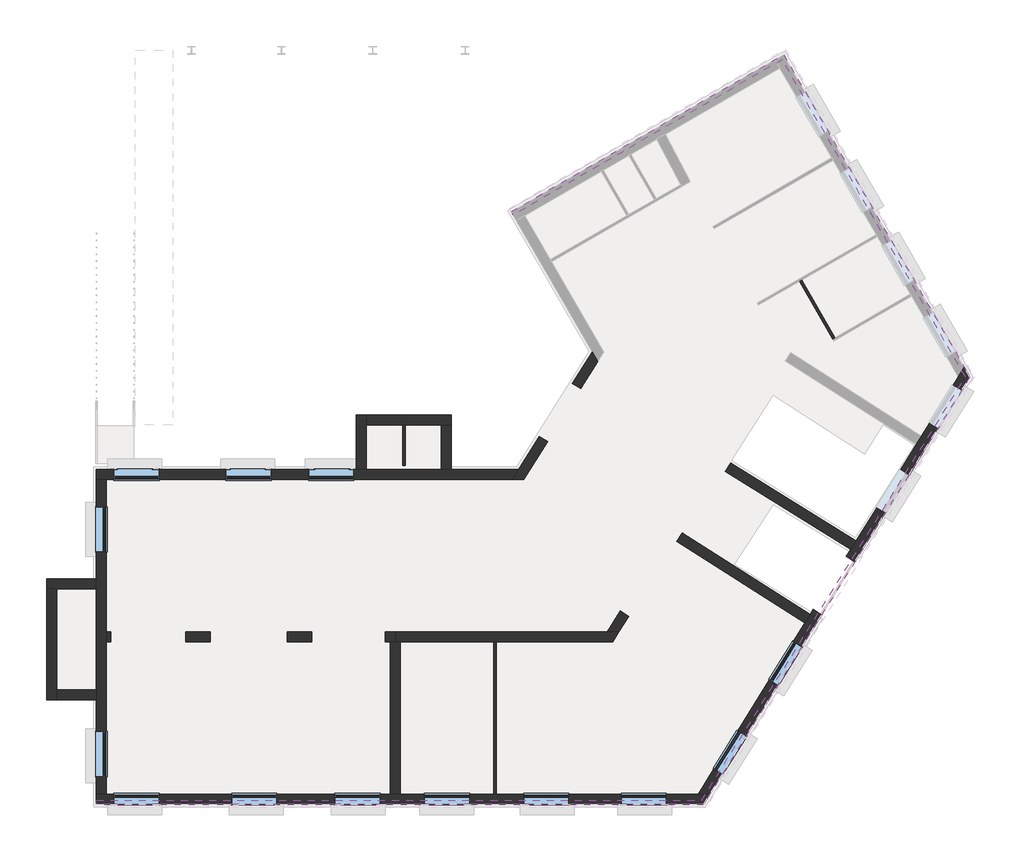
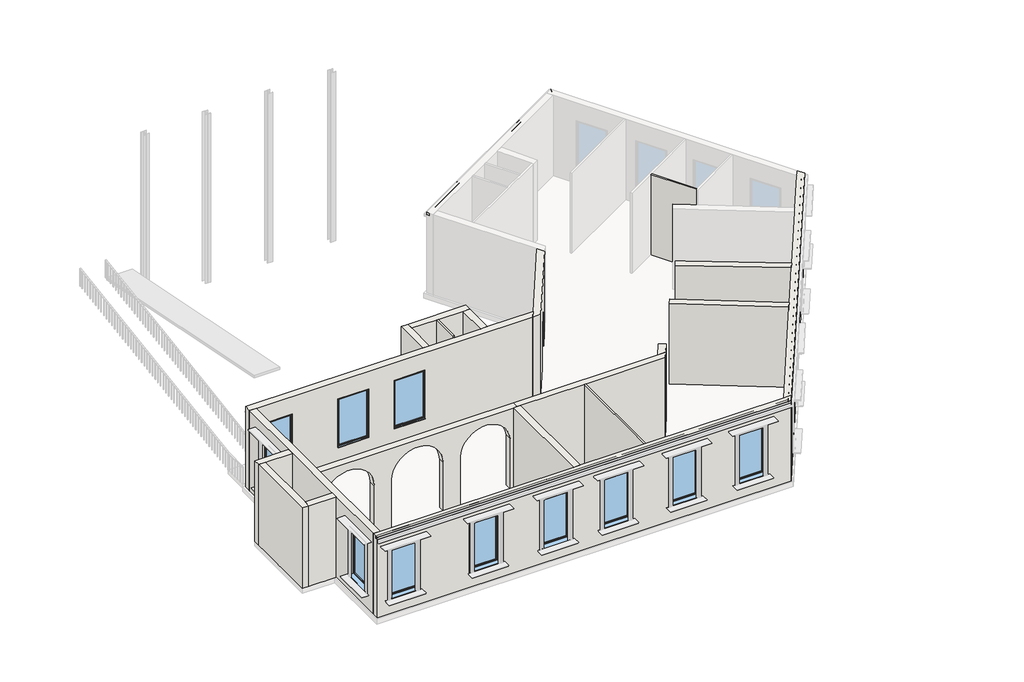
# One storey, part 1 of 3: 20 walls, 13 windows, 1 proxy.
"""IFC4 building model written with IfcOpenShell, lengths in millimetres."""

from ifc_helpers import new_model, si_unit, frame, origin, place, context, project, spatial, polyline, circle_curve, outline, extrude, faceted_brep, transform, mapped, element, save
from ifc_brep_helpers import plane_surface, revolved_surface, advanced_brep
from components import windows_sgl_plain_1810x1210mm_53e896f1, windows_sgl_plain_1810x1210mm_cb1ad5d4

model = new_model("IFC4")

# Units and contexts
model_context = context("Model", 3, world=origin())
ifc_project = project(units=[si_unit("LENGTHUNIT", "METRE", prefix="MILLI")], contexts=[model_context])

# Site, building, storey
site = spatial("IfcSite", under=ifc_project)
building = spatial("IfcBuilding", under=site)
storey = spatial("IfcBuildingStorey", under=building, Name="PLINT LEVEL +1.00", Elevation=1000.0)

# Proxy
placement = place(None, origin())
element("IfcBuildingElementProxy", 1, Name="Reveal", ObjectType="Reveal", at=placement, inside=storey, context=model_context, shape_type="SweptSolid", body=[
    extrude(outline(polyline([(14124.7769696, 25916.2931766), (14180.5592412, 26124.4754481), (21640.5525636, 13203.3879896), (21462.8553803, 13206.3685392), (14124.7769696, 25916.2931766)])), frame((0.0, 0.0, 5840.0), z_axis=(0.0, 0.0, 1.0), x_axis=(1.0, 0.0, 0.0)), (0.0, 0.0, 1.0), 152.4),
    extrude(outline(polyline([(3344.8391535, 19692.4931766), (3268.6391535, 19824.4754481), (14180.5592412, 26124.4754481), (14124.7769696, 25916.2931766), (3344.8391535, 19692.4931766)])), frame((0.0, 0.0, 5840.0), z_axis=(0.0, 0.0, 1.0), x_axis=(1.0, 0.0, 0.0)), (0.0, 0.0, 1.0), 152.4),
    extrude(outline(polyline([(21462.8553803, 13206.3685392), (21640.5525636, 13203.3879896), (10979.352603, -3909.9711746), (10894.7400458, -3757.5711746), (21462.8553803, 13206.3685392)])), frame((0.0, 0.0, 5840.0), z_axis=(0.0, 0.0, 1.0), x_axis=(1.0, 0.0, 0.0)), (0.0, 0.0, 1.0), 152.4),
    extrude(outline(polyline([(-13331.6874983, -3909.9711746), (-13331.6874983, -3757.5711746), (10894.7400458, -3757.5711746), (10979.352603, -3909.9711746), (-13331.6874983, -3909.9711746)])), frame((0.0, 0.0, 5840.0), z_axis=(0.0, 0.0, 1.0), x_axis=(1.0, 0.0, 0.0)), (0.0, 0.0, 1.0), 152.4),
])

# Walls
element("IfcWall", 2, ObjectType="Wall-Partn_12P-70MStd-12P", at=placement, inside=storey, context=model_context, shape_type="SweptSolid", body=[
    extrude(outline(polyline([(14900.5601664, 17077.3972641), (16226.8101664, 14780.2648805), (16144.537753, 14732.7648805), (14818.287753, 17029.8972641), (14900.5601664, 17077.3972641)])), frame((0.0, 0.0, 1000.0), z_axis=(0.0, 0.0, 1.0), x_axis=(1.0, 0.0, 0.0)), (0.0, 0.0, 1.0), 5000.0),
])
element("IfcWall", 3, ObjectType="Wall-Partn_12P-70MStd-12P", at=placement, inside=storey, context=model_context, shape_type="SweptSolid", body=[
    extrude(outline(polyline([(-972.280878, 11290.0288254), (-972.280878, 9665.0288254), (-1067.280878, 9665.0288254), (-1067.280878, 11290.0288254), (-972.280878, 11290.0288254)])), frame((0.0, 0.0, 1000.0), z_axis=(0.0, 0.0, 1.0), x_axis=(1.0, 0.0, 0.0)), (0.0, 0.0, 1.0), 5000.0),
])
element("IfcWall", 4, ObjectType="Wall-Partn_12P-70MStd-12P", at=placement, inside=storey, context=model_context, shape_type="SweptSolid", body=[
    extrude(outline(polyline([(2575.5515361, -3509.9711746), (2575.5515361, 2590.0288254), (2670.5515361, 2590.0288254), (2670.5515361, -3509.9711746), (2575.5515361, -3509.9711746)])), frame((0.0, 0.0, 1000.0), z_axis=(0.0, 0.0, 1.0), x_axis=(1.0, 0.0, 0.0)), (0.0, 0.0, 1.0), 5000.0),
])
element("IfcWall", 5, ObjectType="ug wall 2", at=placement, inside=storey, context=model_context, shape_type="Brep", body=[
    faceted_brep([(-13331.6874983, -3909.9711746, 1000.0), (10979.352603, -3909.9711746, 1000.0), (10979.352603, -3909.9711746, 5700.0), (10979.352603, -3909.9711746, 5840.0), (-13331.6874983, -3909.9711746, 5840.0), (-13331.6874983, -3909.9711746, 5700.0), (-10821.6874983, -3909.9711746, 4900.0), (-10821.6874983, -3909.9711746, 1900.0), (-12631.6874983, -3909.9711746, 1900.0), (-12631.6874983, -3909.9711746, 4900.0), (-7921.6874983, -3909.9711746, 1900.0), (-7921.6874983, -3909.9711746, 4900.0), (-6111.6874983, -3909.9711746, 4900.0), (-6111.6874983, -3909.9711746, 1900.0), (-3786.9484639, -3909.9711746, 1900.0), (-3786.9484639, -3909.9711746, 4900.0), (-1976.9484639, -3909.9711746, 4900.0), (-1976.9484639, -3909.9711746, 1900.0), (-205.6984639, -3909.9711746, 1900.0), (-205.6984639, -3909.9711746, 4900.0), (1604.3015361, -3909.9711746, 4900.0), (1604.3015361, -3909.9711746, 1900.0), (3770.5515361, -3909.9711746, 1900.0), (3770.5515361, -3909.9711746, 4900.0), (5580.5515361, -3909.9711746, 4900.0), (5580.5515361, -3909.9711746, 1900.0), (7680.5515361, -3909.9711746, 1900.0), (7680.5515361, -3909.9711746, 4900.0), (9490.5515361, -3909.9711746, 4900.0), (9490.5515361, -3909.9711746, 1900.0), (10979.352603, -3909.9711746, 6000.0), (-13331.6874983, -3909.9711746, 6000.0), (-13331.6874983, -3909.9711746, 5992.4), (10979.352603, -3909.9711746, 5992.4), (11228.5427206, -3509.9711746, 1000.0), (10757.2724004, -3509.9711746, 1000.0), (2670.5515361, -3509.9711746, 1000.0), (2575.5515361, -3509.9711746, 1000.0), (-1176.9484639, -3509.9711746, 1000.0), (-1576.9484639, -3509.9711746, 1000.0), (-12931.6874983, -3509.9711746, 1000.0), (-13331.6874983, -3509.9711746, 1000.0), (-13331.6874983, -3509.9711746, 6000.0), (-12931.6874983, -3509.9711746, 6000.0), (-1576.9484639, -3509.9711746, 6000.0), (-1176.9484639, -3509.9711746, 6000.0), (2575.5515361, -3509.9711746, 6000.0), (2670.5515361, -3509.9711746, 6000.0), (10757.2724004, -3509.9711746, 6000.0), (11228.5427206, -3509.9711746, 6000.0), (11228.5427206, -3509.9711746, 5992.4), (11048.9887286, -3509.9711746, 5992.4), (11048.9887286, -3509.9711746, 5840.0), (11228.5427206, -3509.9711746, 5840.0), (11228.5427206, -3509.9711746, 5700.0), (-10821.6874983, -3509.9711746, 1900.0), (-10821.6874983, -3509.9711746, 4900.0), (-12631.6874983, -3509.9711746, 4900.0), (-12631.6874983, -3509.9711746, 1900.0), (-7921.6874983, -3509.9711746, 4900.0), (-7921.6874983, -3509.9711746, 1900.0), (-6111.6874983, -3509.9711746, 1900.0), (-6111.6874983, -3509.9711746, 4900.0), (-3786.9484639, -3509.9711746, 4900.0), (-3786.9484639, -3509.9711746, 1900.0), (-1976.9484639, -3509.9711746, 1900.0), (-1976.9484639, -3509.9711746, 4900.0), (-205.6984639, -3509.9711746, 4900.0), (-205.6984639, -3509.9711746, 1900.0), (1604.3015361, -3509.9711746, 1900.0), (1604.3015361, -3509.9711746, 4900.0), (3770.5515361, -3509.9711746, 4900.0), (3770.5515361, -3509.9711746, 1900.0), (5580.5515361, -3509.9711746, 1900.0), (5580.5515361, -3509.9711746, 4900.0), (7680.5515361, -3509.9711746, 4900.0), (7680.5515361, -3509.9711746, 1900.0), (9490.5515361, -3509.9711746, 1900.0), (9490.5515361, -3509.9711746, 4900.0), (-13331.6874983, -3757.5711746, 5840.0), (-13331.6874983, -3757.5711746, 5992.4), (10894.7400458, -3757.5711746, 5992.4), (10894.7400458, -3757.5711746, 5840.0)], [[[0, 1, 2, 3, 4, 5], [6, 7, 8, 9], [10, 11, 12, 13], [14, 15, 16, 17], [18, 19, 20, 21], [22, 23, 24, 25], [26, 27, 28, 29]], [[30, 31, 32, 33]], [[34, 35, 36, 37, 38, 39, 40, 41, 42, 43, 44, 45, 46, 47, 48, 49, 50, 51, 52, 53, 54], [55, 56, 57, 58], [59, 60, 61, 62], [63, 64, 65, 66], [67, 68, 69, 70], [71, 72, 73, 74], [75, 76, 77, 78]], [[1, 0, 41, 40, 39, 38, 37, 36, 35, 34]], [[42, 41, 0, 5, 4, 79, 80, 32, 31]], [[31, 30, 49, 48, 47, 46, 45, 44, 43, 42]], [[7, 6, 56, 55]], [[8, 7, 55, 58]], [[9, 8, 58, 57]], [[6, 9, 57, 56]], [[60, 59, 11, 10]], [[61, 60, 10, 13]], [[62, 61, 13, 12]], [[59, 62, 12, 11]], [[64, 63, 15, 14]], [[65, 64, 14, 17]], [[66, 65, 17, 16]], [[63, 66, 16, 15]], [[68, 67, 19, 18]], [[69, 68, 18, 21]], [[70, 69, 21, 20]], [[67, 70, 20, 19]], [[72, 71, 23, 22]], [[73, 72, 22, 25]], [[74, 73, 25, 24]], [[71, 74, 24, 23]], [[76, 75, 27, 26]], [[77, 76, 26, 29]], [[78, 77, 29, 28]], [[75, 78, 28, 27]], [[80, 81, 51, 50, 33, 32]], [[81, 80, 79, 82]], [[82, 79, 4, 3, 53, 52]], [[81, 82, 52, 51]], [[1, 34, 54, 53, 3, 2]], [[49, 30, 33, 50]]]),
])
element("IfcWall", 6, ObjectType="ug wall 2", at=placement, inside=storey, context=model_context, shape_type="Brep", body=[
    faceted_brep([(10757.2724004, -3509.9711746, 6000.0), (15027.6143644, 3344.7821415, 6000.0), (15239.1339681, 3684.313429, 6000.0), (16869.8307749, 6301.9080943, 6000.0), (17081.3362641, 6641.4167251, 6000.0), (19483.963011, 10498.1134019, 6000.0), (19695.4826147, 10837.6446893, 6000.0), (21174.1557572, 13211.2109546, 6000.0), (21413.8740235, 13596.0067379, 6000.0), (21413.8740235, 13596.0067379, 5992.4), (21322.5413641, 13449.3995444, 5992.4), (21322.5413641, 13449.3995444, 5840.0), (21413.8740235, 13596.0067379, 5840.0), (21413.8740235, 13596.0067379, 5700.0), (21413.8740235, 13596.0067379, 1000.0), (21174.1557572, 13211.2109546, 1000.0), (19695.4826147, 10837.6446893, 1000.0), (19483.963011, 10498.1134019, 1000.0), (17081.3362641, 6641.4167251, 1000.0), (16869.8307749, 6301.9080943, 1000.0), (16690.4764424, 6014.0085032, 1000.0), (16690.4764424, 6014.0085032, 4032.0), (15368.5699538, 3892.0840852, 4032.0), (15368.5699538, 3892.0840852, 1000.0), (15239.1339681, 3684.313429, 1000.0), (15027.6143644, 3344.7821415, 1000.0), (10757.2724004, -3509.9711746, 1000.0), (11385.0840648, -2502.2078327, 4900.0), (11385.0840648, -2502.2078327, 1900.0), (12342.1443625, -965.9345542, 1900.0), (12342.1443625, -965.9345542, 4900.0), (13611.1745916, 1071.1128871, 4900.0), (13611.1745916, 1071.1128871, 1900.0), (14568.2348893, 2607.3861656, 1900.0), (14568.2348893, 2607.3861656, 4900.0), (20014.4896224, 11349.7147675, 4900.0), (20014.4896224, 11349.7147675, 1900.0), (20971.5499201, 12885.9880461, 1900.0), (20971.5499201, 12885.9880461, 4900.0), (18862.3111574, 9500.2377888, 1901.8405332), (18862.3111574, 9500.2377888, 4901.8405332), (17905.2508596, 7963.9645102, 4901.8405332), (17905.2508596, 7963.9645102, 1901.8405332), (21640.5525636, 13203.3879896, 1000.0), (21640.5525636, 13203.3879896, 5700.0), (21640.5525636, 13203.3879896, 5840.0), (11228.5427206, -3509.9711746, 5840.0), (11228.5427206, -3509.9711746, 5700.0), (11228.5427206, -3509.9711746, 1000.0), (14823.3769203, 2260.4570157, 1000.0), (14937.9548596, 2444.3775345, 1000.0), (15708.0778607, 3680.5790471, 1000.0), (15708.0778607, 3680.5790471, 4032.0), (17029.9843493, 5802.503465, 4032.0), (17029.9843493, 5802.503465, 1000.0), (11724.5919717, -2713.7128709, 1900.0), (11724.5919717, -2713.7128709, 4900.0), (12681.6522694, -1177.4395923, 4900.0), (12681.6522694, -1177.4395923, 1900.0), (13950.6824985, 859.6078489, 1900.0), (13950.6824985, 859.6078489, 4900.0), (14907.7427962, 2395.8811275, 4900.0), (14907.7427962, 2395.8811275, 1900.0), (20353.9975292, 11138.2097293, 1900.0), (20353.9975292, 11138.2097293, 4900.0), (21311.057827, 12674.4830079, 4900.0), (21311.057827, 12674.4830079, 1900.0), (19201.8190643, 9288.7327506, 4901.8405332), (19201.8190643, 9288.7327506, 1901.8405332), (18244.7587665, 7752.459472, 1901.8405332), (18244.7587665, 7752.459472, 4901.8405332), (21640.5525636, 13203.3879896, 6000.0), (17642.9715821, 6786.4706278, 6000.0), (15210.6688297, 2882.1380244, 6000.0), (11228.5427206, -3509.9711746, 6000.0), (11228.5427206, -3509.9711746, 5992.4), (21640.5525636, 13203.3879896, 5992.4), (21462.8553803, 13206.3685392, 5840.0), (11048.9887286, -3509.9711746, 5840.0), (21462.8553803, 13206.3685392, 5992.4), (11048.9887286, -3509.9711746, 5992.4)], [[[0, 1, 2, 3, 4, 5, 6, 7, 8, 9, 10, 11, 12, 13, 14, 15, 16, 17, 18, 19, 20, 21, 22, 23, 24, 25, 26], [27, 28, 29, 30], [31, 32, 33, 34], [35, 36, 37, 38], [39, 40, 41, 42]], [[43, 44, 45, 46, 47, 48, 49, 50, 51, 52, 53, 54], [55, 56, 57, 58], [59, 60, 61, 62], [63, 64, 65, 66], [67, 68, 69, 70]], [[71, 72, 73, 74, 75, 76]], [[14, 43, 54, 20, 19, 18, 17, 16, 15]], [[48, 26, 25, 24, 23, 51, 50, 49]], [[8, 71, 76, 9]], [[43, 14, 13, 12, 45, 44]], [[71, 8, 7, 6, 5, 4, 3, 2, 1, 0, 74, 73, 72]], [[28, 27, 56, 55]], [[29, 28, 55, 58]], [[30, 29, 58, 57]], [[27, 30, 57, 56]], [[32, 31, 60, 59]], [[33, 32, 59, 62]], [[34, 33, 62, 61]], [[31, 34, 61, 60]], [[36, 35, 64, 63]], [[37, 36, 63, 66]], [[38, 37, 66, 65]], [[35, 38, 65, 64]], [[11, 77, 78, 46, 45, 12]], [[79, 77, 11, 10]], [[80, 79, 10, 9, 76, 75]], [[77, 79, 80, 78]], [[0, 26, 48, 47, 46, 78, 80, 75, 74]], [[22, 52, 51, 23]], [[52, 22, 21, 53]], [[53, 21, 20, 54]], [[68, 67, 40, 39]], [[69, 68, 39, 42]], [[70, 69, 42, 41]], [[67, 70, 41, 40]]]),
])
element("IfcWall", 7, ObjectType="ug wall 2", at=placement, inside=storey, context=model_context, shape_type="Brep", body=[
    faceted_brep([(6735.0671017, 13820.446121, 1000.0), (6735.0671017, 13820.446121, 6000.0), (3779.174312, 9090.0288254, 6000.0), (3779.174312, 9090.0288254, 1000.0), (4732.5518841, 10615.7518734, 1000.0), (4732.5518841, 10615.7518734, 3992.0), (6057.3500447, 12735.8721138, 3992.0), (6057.3500447, 12735.8721138, 1000.0), (6508.5530916, 14212.7798952, 6000.0), (6508.5530916, 14212.7798952, 1000.0), (5718.1308063, 12947.8398195, 1000.0), (5718.1308063, 12947.8398195, 3992.0), (4393.3326457, 10827.7195791, 3992.0), (4393.3326457, 10827.7195791, 1000.0), (3557.4506914, 9490.0288254, 1000.0), (3307.5029506, 9090.0288254, 1000.0), (3307.5029506, 9090.0288254, 6000.0), (3557.4506914, 9490.0288254, 6000.0)], [[[0, 1, 2, 3, 4, 5, 6, 7]], [[8, 9, 10, 11, 12, 13, 14, 15, 16, 17]], [[9, 0, 7, 10]], [[3, 15, 14, 13, 4]], [[1, 0, 9, 8]], [[3, 2, 16, 15]], [[16, 2, 1, 8, 17]], [[12, 5, 4, 13]], [[6, 11, 10, 7]], [[11, 6, 5, 12]]]),
])
element("IfcWall", 8, ObjectType="ug wall 2", at=placement, inside=storey, context=model_context, shape_type="Brep", body=[
    faceted_brep([(-13331.6874983, 9090.0288254, 6000.0), (-13331.6874983, 9090.0288254, 1000.0), (-12931.6874983, 9090.0288254, 1000.0), (3307.5029506, 9090.0288254, 1000.0), (3307.5029506, 9090.0288254, 6000.0), (-12931.6874983, 9090.0288254, 6000.0), (-10821.6874983, 9090.0288254, 4900.0), (-10821.6874983, 9090.0288254, 1900.0), (-12631.6874983, 9090.0288254, 1900.0), (-12631.6874983, 9090.0288254, 4900.0), (-3031.9484639, 9090.0288254, 4900.0), (-3031.9484639, 9090.0288254, 1900.0), (-4841.9484639, 9090.0288254, 1900.0), (-4841.9484639, 9090.0288254, 4900.0), (-6341.9484639, 9090.0288254, 4900.0), (-6341.9484639, 9090.0288254, 1900.0), (-8151.9484639, 9090.0288254, 1900.0), (-8151.9484639, 9090.0288254, 4900.0), (-13331.6874983, 9490.0288254, 1000.0), (-13331.6874983, 9490.0288254, 6000.0), (-10196.6874983, 9490.0288254, 6000.0), (-2931.9484639, 9490.0288254, 6000.0), (-2531.9484639, 9490.0288254, 6000.0), (468.0515361, 9490.0288254, 6000.0), (868.0515361, 9490.0288254, 6000.0), (3557.4506914, 9490.0288254, 6000.0), (3557.4506914, 9490.0288254, 1000.0), (868.0515361, 9490.0288254, 1000.0), (468.0515361, 9490.0288254, 1000.0), (-2531.9484639, 9490.0288254, 1000.0), (-2931.9484639, 9490.0288254, 1000.0), (-13146.6874983, 9490.0288254, 1000.0), (-13246.6874983, 9490.0288254, 1000.0), (-10821.6874983, 9490.0288254, 4900.0), (-12631.6874983, 9490.0288254, 4900.0), (-12631.6874983, 9490.0288254, 1900.0), (-10821.6874983, 9490.0288254, 1900.0), (-3031.9484639, 9490.0288254, 4900.0), (-4841.9484639, 9490.0288254, 4900.0), (-4841.9484639, 9490.0288254, 1900.0), (-3031.9484639, 9490.0288254, 1900.0), (-6341.9484639, 9490.0288254, 4900.0), (-8151.9484639, 9490.0288254, 4900.0), (-8151.9484639, 9490.0288254, 1900.0), (-6341.9484639, 9490.0288254, 1900.0)], [[[0, 1, 2, 3, 4, 5], [6, 7, 8, 9], [10, 11, 12, 13], [14, 15, 16, 17]], [[18, 19, 20, 21, 22, 23, 24, 25, 26, 27, 28, 29, 30, 31, 32], [33, 34, 35, 36], [37, 38, 39, 40], [41, 42, 43, 44]], [[3, 2, 1, 18, 32, 31, 30, 29, 28, 27, 26]], [[4, 3, 26, 25]], [[0, 5, 4, 25, 24, 23, 22, 21, 20, 19]], [[7, 6, 33, 36]], [[8, 7, 36, 35]], [[9, 8, 35, 34]], [[6, 9, 34, 33]], [[11, 10, 37, 40]], [[12, 11, 40, 39]], [[13, 12, 39, 38]], [[10, 13, 38, 37]], [[15, 14, 41, 44]], [[16, 15, 44, 43]], [[17, 16, 43, 42]], [[14, 17, 42, 41]], [[0, 19, 18, 1]]]),
])
element("IfcWall", 9, ObjectType="ug wall 2", at=placement, inside=storey, context=model_context, shape_type="Brep", body=[
    faceted_brep([(-12931.6874983, -3509.9711746, 1000.0), (-12931.6874983, 2590.0288254, 1000.0), (-12931.6874983, 2990.0288254, 1000.0), (-12931.6874983, 9090.0288254, 1000.0), (-12931.6874983, 9090.0288254, 6000.0), (-12931.6874983, 2990.0288254, 6000.0), (-12931.6874983, 2590.0288254, 6000.0), (-12931.6874983, -3509.9711746, 6000.0), (-12931.6874983, -999.9711746, 4900.0), (-12931.6874983, -999.9711746, 1900.0), (-12931.6874983, -2809.9711746, 1900.0), (-12931.6874983, -2809.9711746, 4900.0), (-12931.6874983, 8002.7918146, 4900.0), (-12931.6874983, 8002.7918146, 1900.0), (-12931.6874983, 6192.7918146, 1900.0), (-12931.6874983, 6192.7918146, 4900.0), (-13331.6874983, -3509.9711746, 1000.0), (-13331.6874983, -3509.9711746, 6000.0), (-13331.6874983, 265.5548037, 6000.0), (-13331.6874983, 665.5548037, 6000.0), (-13331.6874983, 4705.5548037, 6000.0), (-13331.6874983, 5105.5548037, 6000.0), (-13331.6874983, 9090.0288254, 6000.0), (-13331.6874983, 9090.0288254, 1000.0), (-13331.6874983, 5105.5548037, 1000.0), (-13331.6874983, 4705.5548037, 1000.0), (-13331.6874983, 665.5548037, 1000.0), (-13331.6874983, 265.5548037, 1000.0), (-13331.6874983, -999.9711746, 4900.0), (-13331.6874983, -2809.9711746, 4900.0), (-13331.6874983, -2809.9711746, 1900.0), (-13331.6874983, -999.9711746, 1900.0), (-13331.6874983, 8002.7918146, 4900.0), (-13331.6874983, 6192.7918146, 4900.0), (-13331.6874983, 6192.7918146, 1900.0), (-13331.6874983, 8002.7918146, 1900.0)], [[[0, 1, 2, 3, 4, 5, 6, 7], [8, 9, 10, 11], [12, 13, 14, 15]], [[16, 17, 18, 19, 20, 21, 22, 23, 24, 25, 26, 27], [28, 29, 30, 31], [32, 33, 34, 35]], [[3, 2, 1, 0, 16, 27, 26, 25, 24, 23]], [[0, 7, 17, 16]], [[7, 6, 5, 4, 22, 21, 20, 19, 18, 17]], [[9, 8, 28, 31]], [[10, 9, 31, 30]], [[11, 10, 30, 29]], [[8, 11, 29, 28]], [[13, 12, 32, 35]], [[14, 13, 35, 34]], [[15, 14, 34, 33]], [[12, 15, 33, 32]], [[3, 23, 22, 4]]]),
])
element("IfcWall", 10, ObjectType="ug wall 2", at=placement, inside=storey, context=model_context, shape_type="AdvancedBrep", body=[
    advanced_brep(
    [(-1376.9484639, 2990.0288254, 1000.0), (-1769.1874983, 2990.0288254, 1000.0), (-1769.1874983, 2990.0288254, 4129.8016781), (-4711.6874983, 2990.0288254, 4000.0), (-4711.6874983, 2990.0288254, 1000.0), (-5691.6874983, 2990.0288254, 1000.0), (-5691.6874983, 2990.0288254, 4000.0), (-8771.6874983, 2990.0288254, 4000.0), (-8771.6874983, 2990.0288254, 1000.0), (-9751.6874983, 2990.0288254, 1000.0), (-9751.6874983, 2990.0288254, 4000.0), (-12755.2222662, 2990.0288254, 4075.0), (-12755.2222662, 2990.0288254, 1000.0), (-12931.6874983, 2990.0288254, 1000.0), (-12931.6874983, 2990.0288254, 6000.0), (-1376.9484639, 2990.0288254, 6000.0), (-1376.9484639, 2590.0288254, 1000.0), (-1376.9484639, 2590.0288254, 6000.0), (-1576.9484639, 2590.0288254, 6000.0), (-12931.6874983, 2590.0288254, 6000.0), (-12931.6874983, 2590.0288254, 1000.0), (-12755.2222662, 2590.0288254, 1000.0), (-12755.2222662, 2590.0288254, 4075.0), (-9751.6874983, 2590.0288254, 4000.0), (-9751.6874983, 2590.0288254, 1000.0), (-8771.6874983, 2590.0288254, 1000.0), (-8771.6874983, 2590.0288254, 4000.0), (-5691.6874983, 2590.0288254, 4000.0), (-5691.6874983, 2590.0288254, 1000.0), (-4711.6874983, 2590.0288254, 1000.0), (-4711.6874983, 2590.0288254, 4000.0), (-1769.1874983, 2590.0288254, 4129.8016781), (-1769.1874983, 2590.0288254, 1000.0), (-1576.9484639, 2590.0288254, 1000.0)],
    [
        (0, 1),
        (1, 2),
        (2, 3, circle_curve(frame((-3237.5745458, 2990.0288254, 4000.0), z_axis=(0.0, -1.0, 0.0), x_axis=(1.0, 0.0, 0.0)), 1474.1129525)),
        (3, 4),
        (4, 5),
        (5, 6),
        (6, 7, circle_curve(frame((-7231.6874983, 2990.0288254, 4000.0), z_axis=(0.0, -1.0, 0.0), x_axis=(1.0, 0.0, 0.0)), 1540.0)),
        (7, 8),
        (8, 9),
        (9, 10),
        (10, 11, circle_curve(frame((-11254.391279, 2990.0288254, 4000.0), z_axis=(0.0, -1.0, 0.0), x_axis=(1.0, 0.0, 0.0)), 1502.7037806)),
        (11, 12),
        (12, 13),
        (13, 14),
        (14, 15),
        (15, 0),
        (16, 17),
        (17, 18),
        (18, 19),
        (19, 20),
        (20, 21),
        (21, 22),
        (22, 23, circle_curve(frame((-11254.391279, 2590.0288254, 4000.0), z_axis=(0.0, 1.0, 0.0), x_axis=(1.0, 0.0, 0.0)), 1502.7037806)),
        (23, 24),
        (24, 25),
        (25, 26),
        (26, 27, circle_curve(frame((-7231.6874983, 2590.0288254, 4000.0), z_axis=(0.0, 1.0, 0.0), x_axis=(1.0, 0.0, 0.0)), 1540.0)),
        (27, 28),
        (28, 29),
        (29, 30),
        (30, 31, circle_curve(frame((-3237.5745458, 2590.0288254, 4000.0), z_axis=(0.0, 1.0, 0.0), x_axis=(1.0, 0.0, 0.0)), 1474.1129525)),
        (31, 32),
        (32, 33),
        (33, 16),
        (13, 20),
        (19, 14),
        (0, 16),
        (32, 1),
        (15, 17),
        (31, 2),
        (30, 3),
        (29, 4),
        (28, 5),
        (27, 6),
        (26, 7),
        (25, 8),
        (24, 9),
        (23, 10),
        (22, 11),
        (21, 12),
    ],
    [
        plane_surface(frame((-1376.9484639, 2990.0288254, 1000.0), z_axis=(0.0, 1.0, 0.0), x_axis=(-1.0, 0.0, 0.0))),
        plane_surface(frame((-1376.9484639, 2590.0288254, 1000.0), z_axis=(0.0, -1.0, 0.0), x_axis=(1.0, 0.0, 0.0))),
        plane_surface(frame((-12931.6874983, -3709.9711746, 1000.0), z_axis=(-1.0, 0.0, 0.0), x_axis=(0.0, 1.0, 0.0))),
        plane_surface(frame((-1376.9484639, 2990.0288254, 1000.0), z_axis=(0.0, 0.0, -1.0), x_axis=(0.0, -1.0, 0.0))),
        plane_surface(frame((-1376.9484639, 2990.0288254, 6000.0), z_axis=(1.0, 0.0, 0.0), x_axis=(0.0, -1.0, 0.0))),
        plane_surface(frame((-1769.1874983, 2990.0288254, 1000.0), z_axis=(-1.0, 0.0, 0.0), x_axis=(0.0, -1.0, 0.0))),
        revolved_surface(polyline([(-1763.4615933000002, 2590.0288254, 4000.0), (-1763.4615933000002, 2990.0288254, 4000.0)]), (-3237.5745458, 2590.0288254, 4000.0), (0.0, -1.0, 0.0)),
        plane_surface(frame((-4711.6874983, 2990.0288254, 4000.0), z_axis=(1.0, 0.0, 0.0), x_axis=(0.0, -1.0, 0.0))),
        plane_surface(frame((-4711.6874983, 2990.0288254, 1000.0), z_axis=(0.0, 0.0, -1.0), x_axis=(0.0, -1.0, 0.0))),
        plane_surface(frame((-5691.6874983, 2990.0288254, 1000.0), z_axis=(-1.0, 0.0, 0.0), x_axis=(0.0, -1.0, 0.0))),
        revolved_surface(polyline([(-5691.6874983, 2590.0288254, 4000.0), (-5691.6874983, 2990.0288254, 4000.0)]), (-7231.6874983, 2590.0288254, 4000.0), (0.0, -1.0, 0.0)),
        plane_surface(frame((-8771.6874983, 2990.0288254, 4000.0), z_axis=(1.0, 0.0, 0.0), x_axis=(0.0, -1.0, 0.0))),
        plane_surface(frame((-8771.6874983, 2990.0288254, 1000.0), z_axis=(0.0, 0.0, -1.0), x_axis=(0.0, -1.0, 0.0))),
        plane_surface(frame((-9751.6874983, 2990.0288254, 1000.0), z_axis=(-1.0, 0.0, 0.0), x_axis=(0.0, -1.0, 0.0))),
        revolved_surface(polyline([(-9751.687498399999, 2590.0288254, 4000.0), (-9751.687498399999, 2990.0288254, 4000.0)]), (-11254.391279, 2590.0288254, 4000.0), (0.0, -1.0, 0.0)),
        plane_surface(frame((-12755.2222662, 2990.0288254, 4075.0), z_axis=(1.0, 0.0, 0.0), x_axis=(0.0, -1.0, 0.0))),
        plane_surface(frame((-12755.2222662, 2990.0288254, 1000.0), z_axis=(0.0, 0.0, -1.0), x_axis=(0.0, -1.0, 0.0))),
        plane_surface(frame((14180.5592412, 26124.4754481, 6000.0), z_axis=(0.0, 0.0, 1.0), x_axis=(0.49999999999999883, -0.8660254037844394, 0.0))),
    ],
    [
        (0, [[1, 2, 3, 4, 5, 6, 7, 8, 9, 10, 11, 12, 13, 14, 15, 16]]),
        (1, [[17, 18, 19, 20, 21, 22, 23, 24, 25, 26, 27, 28, 29, 30, 31, 32, 33, 34]]),
        (2, [[-14, 35, -20, 36]]),
        (3, [[-1, 37, -34, -33, 38]]),
        (4, [[-16, 39, -17, -37]]),
        (5, [[-2, -38, -32, 40]]),
        (6, [[-3, -40, -31, 41]]),
        (7, [[-4, -41, -30, 42]]),
        (8, [[-5, -42, -29, 43]]),
        (9, [[-6, -43, -28, 44]]),
        (10, [[-7, -44, -27, 45]]),
        (11, [[-8, -45, -26, 46]]),
        (12, [[-9, -46, -25, 47]]),
        (13, [[-10, -47, -24, 48]]),
        (14, [[-11, -48, -23, 49]]),
        (15, [[-12, -49, -22, 50]]),
        (16, [[-13, -50, -21, -35]]),
        (17, [[-15, -36, -19, -18, -39]]),
    ],
),
])
element("IfcWall", 11, ObjectType="ug wall 2", at=placement, inside=storey, context=model_context, shape_type="Brep", body=[
    faceted_brep([(-1376.9484639, 2590.0288254, 6000.0), (-1376.9484639, 2590.0288254, 1000.0), (-1176.9484639, 2590.0288254, 1000.0), (2575.5515361, 2590.0288254, 1000.0), (2670.5515361, 2590.0288254, 1000.0), (7334.3619634, 2590.0288254, 1000.0), (7334.3619634, 2590.0288254, 6000.0), (2670.5515361, 2590.0288254, 6000.0), (2575.5515361, 2590.0288254, 6000.0), (-1176.9484639, 2590.0288254, 6000.0), (-1376.9484639, 2990.0288254, 1000.0), (-1376.9484639, 2990.0288254, 6000.0), (7111.7411088, 2990.0288254, 6000.0), (7582.406908, 2990.0288254, 6000.0), (7582.406908, 2990.0288254, 1000.0), (7111.7411088, 2990.0288254, 1000.0)], [[[0, 1, 2, 3, 4, 5, 6, 7, 8, 9]], [[10, 11, 12, 13, 14, 15]], [[5, 4, 3, 2, 1, 10, 15, 14]], [[6, 5, 14, 13]], [[0, 11, 10, 1]], [[0, 9, 8, 7, 6, 13, 12, 11]]]),
])
element("IfcWall", 12, ObjectType="ug wall 2", at=placement, inside=storey, context=model_context, shape_type="SweptSolid", body=[
    extrude(outline(polyline([(7972.7330292, 3619.4730121), (7582.406908, 2990.0288254), (7111.7411088, 2990.0288254), (7632.7890599, 3830.2764697), (7972.7330292, 3619.4730121)])), frame((0.0, 0.0, 1000.0), z_axis=(0.0, 0.0, 1.0), x_axis=(1.0, 0.0, 0.0)), (0.0, 0.0, 1.0), 5000.0),
])
element("IfcWall", 13, ObjectType="ug wall 2", at=placement, inside=storey, context=model_context, shape_type="Brep", body=[
    faceted_brep([(-1576.9484639, 2590.0288254, 1000.0), (-1576.9484639, -3509.9711746, 1000.0), (-1576.9484639, -3509.9711746, 6000.0), (-1576.9484639, 2590.0288254, 6000.0), (-1176.9484639, 2590.0288254, 1000.0), (-1176.9484639, 2590.0288254, 6000.0), (-1176.9484639, -3509.9711746, 6000.0), (-1176.9484639, -3509.9711746, 1000.0), (-1376.9484639, 2590.0288254, 1000.0), (-1376.9484639, 2590.0288254, 6000.0)], [[[0, 1, 2, 3]], [[4, 5, 6, 7]], [[1, 0, 8, 4, 7]], [[2, 1, 7, 6]], [[3, 2, 6, 5, 9]], [[0, 3, 9, 5, 4, 8]]]),
])
element("IfcWall", 14, ObjectType="ug wall 2", at=placement, inside=storey, context=model_context, shape_type="Brep", body=[
    faceted_brep([(17081.3362641, 6641.4167251, 1000.0), (12060.3510355, 9754.9917333, 1000.0), (12060.3510355, 9754.9917333, 6000.0), (12492.0926788, 9487.2634032, 6000.0), (17081.3362641, 6641.4167251, 6000.0), (11849.5475778, 9415.047764, 1000.0), (16869.8307749, 6301.9080943, 1000.0), (16869.8307749, 6301.9080943, 6000.0), (11849.5475778, 9415.047764, 6000.0)], [[[0, 1, 2, 3, 4]], [[5, 6, 7, 8]], [[1, 0, 6, 5]], [[2, 1, 5, 8]], [[0, 4, 7, 6]], [[8, 7, 4, 3, 2]]]),
])
element("IfcWall", 15, ObjectType="ug wall 2", at=placement, inside=storey, context=model_context, shape_type="SweptSolid", body=[
    extrude(outline(polyline([(10116.9105403, 6959.3923324), (15239.1339681, 3684.313429), (15027.6143644, 3344.7821415), (9901.4358307, 6622.3898851), (10116.9105403, 6959.3923324)])), frame((0.0, 0.0, 1000.0), z_axis=(0.0, 0.0, 1.0), x_axis=(1.0, 0.0, 0.0)), (0.0, 0.0, 1.0), 5000.0),
])
element("IfcWall", 16, ObjectType="ug wall 2", at=placement, inside=storey, context=model_context, shape_type="Brep", body=[
    faceted_brep([(-2531.9484639, 9490.0288254, 1000.0), (-2531.9484639, 11290.0288254, 1000.0), (-2531.9484639, 11690.0288254, 1000.0), (-2531.9484639, 11690.0288254, 6000.0), (-2531.9484639, 11290.0288254, 6000.0), (-2531.9484639, 9490.0288254, 6000.0), (-2931.9484639, 9490.0288254, 1000.0), (-2931.9484639, 9490.0288254, 6000.0), (-2931.9484639, 11690.0288254, 6000.0), (-2931.9484639, 11690.0288254, 1000.0)], [[[0, 1, 2, 3, 4, 5]], [[6, 7, 8, 9]], [[2, 1, 0, 6, 9]], [[0, 5, 7, 6]], [[3, 2, 9, 8]], [[5, 4, 3, 8, 7]]]),
])
element("IfcWall", 17, ObjectType="ug wall 2", at=placement, inside=storey, context=model_context, shape_type="Brep", body=[
    faceted_brep([(-2531.9484639, 11290.0288254, 1000.0), (-1067.280878, 11290.0288254, 1000.0), (-972.280878, 11290.0288254, 1000.0), (468.0515361, 11290.0288254, 1000.0), (868.0515361, 11290.0288254, 1000.0), (868.0515361, 11290.0288254, 6000.0), (468.0515361, 11290.0288254, 6000.0), (-972.280878, 11290.0288254, 6000.0), (-1067.280878, 11290.0288254, 6000.0), (-2531.9484639, 11290.0288254, 6000.0), (-2531.9484639, 11690.0288254, 1000.0), (-2531.9484639, 11690.0288254, 6000.0), (868.0515361, 11690.0288254, 6000.0), (868.0515361, 11690.0288254, 1000.0)], [[[0, 1, 2, 3, 4, 5, 6, 7, 8, 9]], [[10, 11, 12, 13]], [[4, 3, 2, 1, 0, 10, 13]], [[0, 9, 11, 10]], [[5, 4, 13, 12]], [[9, 8, 7, 6, 5, 12, 11]]]),
])
element("IfcWall", 18, ObjectType="ug wall 2", at=placement, inside=storey, context=model_context, shape_type="SweptSolid", body=[
    extrude(outline(polyline([(468.0515361, 9490.0288254), (468.0515361, 11290.0288254), (868.0515361, 11290.0288254), (868.0515361, 9490.0288254), (468.0515361, 9490.0288254)])), frame((0.0, 0.0, 1000.0), z_axis=(0.0, 0.0, 1.0), x_axis=(1.0, 0.0, 0.0)), (0.0, 0.0, 1.0), 5000.0),
])
element("IfcWall", 19, ObjectType="ug wall 2", at=placement, inside=storey, context=model_context, shape_type="Brep", body=[
    faceted_brep([(-13331.6874983, 5105.5548037, 1000.0), (-15331.6874983, 5105.5548037, 1000.0), (-15331.6874983, 5105.5548037, 6000.0), (-13331.6874983, 5105.5548037, 6000.0), (-13331.6874983, 4705.5548037, 1000.0), (-13331.6874983, 4705.5548037, 6000.0), (-14931.6874983, 4705.5548037, 6000.0), (-15331.6874983, 4705.5548037, 6000.0), (-15331.6874983, 4705.5548037, 1000.0), (-14931.6874983, 4705.5548037, 1000.0)], [[[0, 1, 2, 3]], [[4, 5, 6, 7, 8, 9]], [[1, 0, 4, 9, 8]], [[0, 3, 5, 4]], [[2, 1, 8, 7]], [[3, 2, 7, 6, 5]]]),
])
element("IfcWall", 20, ObjectType="ug wall 2", at=placement, inside=storey, context=model_context, shape_type="Brep", body=[
    faceted_brep([(-15331.6874983, 4705.5548037, 1000.0), (-15331.6874983, 265.5548037, 1000.0), (-15331.6874983, 265.5548037, 6000.0), (-15331.6874983, 4705.5548037, 6000.0), (-14931.6874983, 4705.5548037, 1000.0), (-14931.6874983, 4705.5548037, 6000.0), (-14931.6874983, 665.5548037, 6000.0), (-14931.6874983, 265.5548037, 6000.0), (-14931.6874983, 265.5548037, 1000.0), (-14931.6874983, 665.5548037, 1000.0)], [[[0, 1, 2, 3]], [[4, 5, 6, 7, 8, 9]], [[1, 0, 4, 9, 8]], [[0, 3, 5, 4]], [[2, 1, 8, 7]], [[3, 2, 7, 6, 5]]]),
])
element("IfcWall", 21, ObjectType="ug wall 2", at=placement, inside=storey, context=model_context, shape_type="SweptSolid", body=[
    extrude(outline(polyline([(-13331.6874983, 265.5548037), (-14931.6874983, 265.5548037), (-14931.6874983, 665.5548037), (-13331.6874983, 665.5548037), (-13331.6874983, 265.5548037)])), frame((0.0, 0.0, 1000.0), z_axis=(0.0, 0.0, 1.0), x_axis=(1.0, 0.0, 0.0)), (0.0, 0.0, 1.0), 5000.0),
])

# Windows
windows_sgl_plain_1810x1210mm_shape = windows_sgl_plain_1810x1210mm_53e896f1(model_context)
element("IfcWindow", 22, ObjectType="Windows_Sgl_Plain : 1810x1210mm", at=placement, inside=storey, context=model_context, shape_type="MappedRepresentation", body=[
    mapped(windows_sgl_plain_1810x1210mm_shape, transform((-7016.6874983, -3718.4277424, 2790.0), x_axis=(1.0, 0.0, 0.0), y_axis=(0.0, 1.0, 0.0), z_axis=(0.0, 0.0, 1.0))),
])
element("IfcWindow", 23, ObjectType="Windows_Sgl_Plain : 1810x1210mm", at=placement, inside=storey, context=model_context, shape_type="MappedRepresentation", body=[
    mapped(windows_sgl_plain_1810x1210mm_shape, transform((-2881.9484639, -3718.4277424, 2790.0), x_axis=(1.0, 0.0, 0.0), y_axis=(0.0, 1.0, 0.0), z_axis=(0.0, 0.0, 1.0))),
])
element("IfcWindow", 24, ObjectType="Windows_Sgl_Plain : 1810x1210mm", at=placement, inside=storey, context=model_context, shape_type="MappedRepresentation", body=[
    mapped(windows_sgl_plain_1810x1210mm_shape, transform((699.3015361, -3718.4277424, 2790.0), x_axis=(1.0, 0.0, 0.0), y_axis=(0.0, 1.0, 0.0), z_axis=(0.0, 0.0, 1.0))),
])
element("IfcWindow", 25, ObjectType="Windows_Sgl_Plain : 1810x1210mm", at=placement, inside=storey, context=model_context, shape_type="MappedRepresentation", body=[
    mapped(windows_sgl_plain_1810x1210mm_shape, transform((4675.5515361, -3718.4277424, 2790.0), x_axis=(1.0, 0.0, 0.0), y_axis=(0.0, 1.0, 0.0), z_axis=(0.0, 0.0, 1.0))),
])
element("IfcWindow", 26, ObjectType="Windows_Sgl_Plain : 1810x1210mm", at=placement, inside=storey, context=model_context, shape_type="MappedRepresentation", body=[
    mapped(windows_sgl_plain_1810x1210mm_shape, transform((8585.5515361, -3718.4277424, 2790.0), x_axis=(1.0, 0.0, 0.0), y_axis=(0.0, 1.0, 0.0), z_axis=(0.0, 0.0, 1.0))),
])
element("IfcWindow", 27, ObjectType="Windows_Sgl_Plain : 1810x1210mm", at=placement, inside=storey, context=model_context, shape_type="MappedRepresentation", body=[
    mapped(windows_sgl_plain_1810x1210mm_shape, transform((12040.5458462, -1844.2952293, 2790.0), x_axis=(0.5287625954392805, 0.8487697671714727, 0.0), y_axis=(-0.8487697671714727, 0.5287625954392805, 0.0), z_axis=(0.0, 0.0, 1.0))),
])
element("IfcWindow", 28, ObjectType="Windows_Sgl_Plain : 1810x1210mm", at=placement, inside=storey, context=model_context, shape_type="MappedRepresentation", body=[
    mapped(windows_sgl_plain_1810x1210mm_shape, transform((14266.636373, 1729.0254905, 2790.0), x_axis=(0.5287625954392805, 0.8487697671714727, 0.0), y_axis=(-0.8487697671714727, 0.5287625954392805, 0.0), z_axis=(0.0, 0.0, 1.0))),
])
element("IfcWindow", 29, ObjectType="Windows_Sgl_Plain : 1810x1210mm", at=placement, inside=storey, context=model_context, shape_type="MappedRepresentation", body=[
    mapped(windows_sgl_plain_1810x1210mm_shape, transform((-11726.6874983, 9298.4853932, 2790.0), x_axis=(-1.0, 0.0, 0.0), y_axis=(0.0, -1.0, 0.0), z_axis=(0.0, 0.0, 1.0))),
])
element("IfcWindow", 30, ObjectType="Windows_Sgl_Plain : 1810x1210mm", at=placement, inside=storey, context=model_context, shape_type="MappedRepresentation", body=[
    mapped(windows_sgl_plain_1810x1210mm_shape, transform((-3936.9484639, 9298.4853932, 2790.0), x_axis=(-1.0, 0.0, 0.0), y_axis=(0.0, -1.0, 0.0), z_axis=(0.0, 0.0, 1.0))),
])
element("IfcWindow", 31, ObjectType="Windows_Sgl_Plain : 1810x1210mm", at=placement, inside=storey, context=model_context, shape_type="MappedRepresentation", body=[
    mapped(windows_sgl_plain_1810x1210mm_shape, transform((-7246.9484639, 9298.4853932, 2790.0), x_axis=(-1.0, 0.0, 0.0), y_axis=(0.0, -1.0, 0.0), z_axis=(0.0, 0.0, 1.0))),
])
element("IfcWindow", 32, ObjectType="Windows_Sgl_Plain : 1810x1210mm", at=placement, inside=storey, context=model_context, shape_type="MappedRepresentation", body=[
    mapped(windows_sgl_plain_1810x1210mm_shape, transform((-13140.1440662, -1904.9711746, 2790.0), x_axis=(0.0, -1.0, 0.0), y_axis=(1.0, 0.0, 0.0), z_axis=(0.0, 0.0, 1.0))),
])
element("IfcWindow", 33, ObjectType="Windows_Sgl_Plain : 1810x1210mm", at=placement, inside=storey, context=model_context, shape_type="MappedRepresentation", body=[
    mapped(windows_sgl_plain_1810x1210mm_shape, transform((-13140.1440662, 7097.7918146, 2790.0), x_axis=(0.0, -1.0, 0.0), y_axis=(1.0, 0.0, 0.0), z_axis=(0.0, 0.0, 1.0))),
])
windows_sgl_plain_1810x1210mm_2_shape = windows_sgl_plain_1810x1210mm_cb1ad5d4(model_context)
element("IfcWindow", 34, ObjectType="Windows_Sgl_Plain : 1810x1210mm", at=placement, inside=storey, context=model_context, shape_type="MappedRepresentation", body=[
    mapped(windows_sgl_plain_1810x1210mm_2_shape, transform((-11726.6874983, -3718.4277424, 2790.0), x_axis=(-1.0, 0.0, 0.0), y_axis=(0.0, -1.0, 0.0), z_axis=(0.0, 0.0, 1.0))),
])

save(model, "model.ifc")
